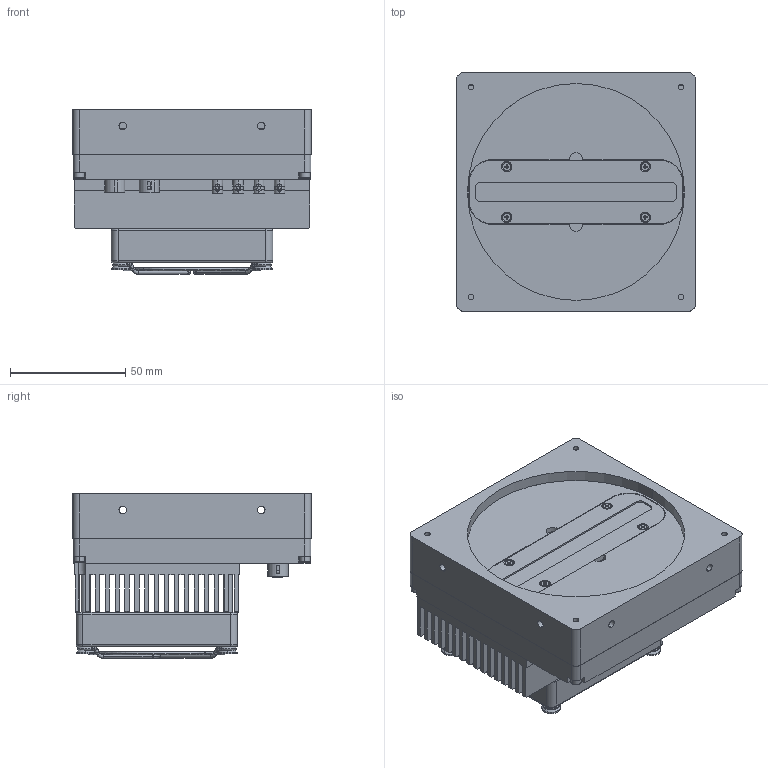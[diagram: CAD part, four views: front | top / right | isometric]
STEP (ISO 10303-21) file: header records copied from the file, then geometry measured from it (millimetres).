
FILE_DESCRIPTION (( 'STEP AP203' ), '1' );
FILE_NAME ('TPH16KCXP.STEP', '2022-04-11T11:30:04', ( '微软用户' ), ( '微软中国' ), 'SwSTEP 2.0', 'SolidWorks 2017', '' );
FILE_SCHEMA (( 'CONFIG_CONTROL_DESIGN' ));
Length unit declared in the file: millimetre
Products named in the file (2): TPH16KCXP
Bounding box: 103.5 x 103.5 x 71.26 mm (x, y, z)
Surface area: 116373.8 mm2 (no closed solid volume)
Topology: 0 solids, 96 shells, 1023 faces, 4009 edges, 2996 vertices
Faces by surface type: plane 462, cylinder 350, bspline 104, cone 80, torus 16, sphere 11
Entity records: 50474 total; most frequent: CARTESIAN_POINT 18758, ORIENTED_EDGE 6086, DIRECTION 6055, EDGE_CURVE 3978, VERTEX_POINT 2984, LINE 2271, VECTOR 2271, AXIS2_PLACEMENT_3D 1892
